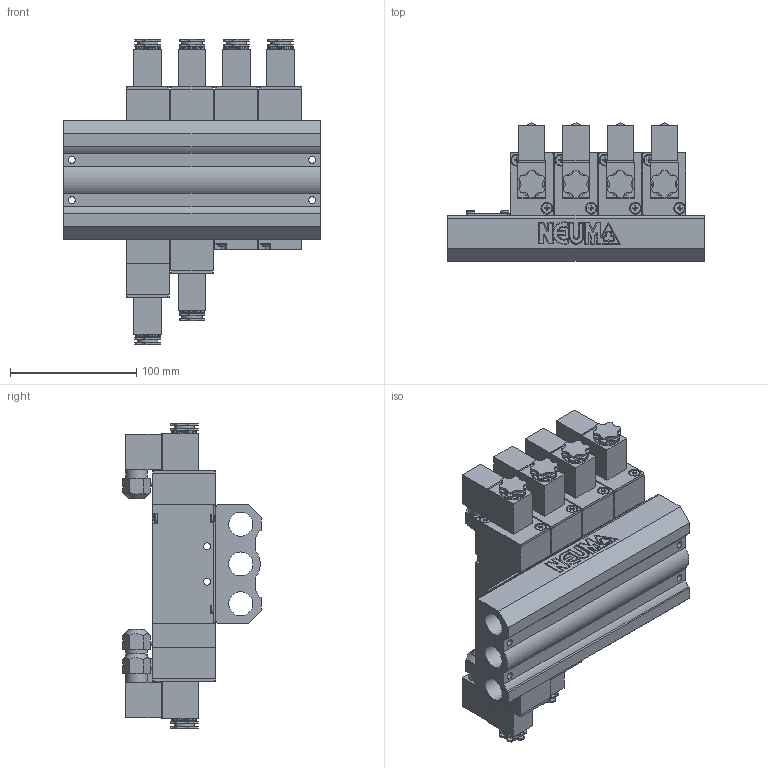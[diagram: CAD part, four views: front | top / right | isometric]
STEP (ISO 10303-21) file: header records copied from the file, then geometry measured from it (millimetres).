
FILE_DESCRIPTION (( 'STEP AP214' ), '1' );
FILE_NAME ('NVA-8500-D2.STEP', '2016-08-04T03:45:27', ( 'Casper' ), ( '' ), 'SwSTEP 2.0', 'SolidWorks 2015', '' );
FILE_SCHEMA (( 'AUTOMOTIVE_DESIGN' ));
Length unit declared in the file: millimetre
Products named in the file (18): NVA-8532-D2; NVA-8500-D01_NVA8500中座; NVA-8522-D2; NVA-8521-D2; 十字圓頭螺栓-M4x0.7x8; NVA-8500-K01_NVA8500端蓋; 2分-M8塑膠螺帽; 2分插頭型線圈(IP67); M4x0.7x30十字皿頭螺栓; NVA-8500-G01; 可動鐵管件組(2分); NV-5500-N01_NV5500手動操作器; NVA-8500-JXX_引導閥體; NVA-8500-C01_NVA8500標準式本體; BM-8500-Y01_BM8500單獨式底座; NVA-8500-D2; NVA-8500-G01_NVA-8500底座蓋版; 十字圓頭螺栓-M4x0.7x50
Assembly tree (64 placements, depth 3):
  NVA-8500-D2
    BM-8500-Y01_BM8500單獨式底座
    NVA-8521-D2  x2
      NVA-8500-C01_NVA8500標準式本體
      NVA-8500-JXX_引導閥體
      NV-5500-N01_NV5500手動操作器
      可動鐵管件組(2分)
      NVA-8500-G01
      M4x0.7x30十字皿頭螺栓
      2分插頭型線圈(IP67)
      2分-M8塑膠螺帽
      NVA-8500-K01_NVA8500端蓋
      十字圓頭螺栓-M4x0.7x8
    NVA-8522-D2
      NVA-8500-C01_NVA8500標準式本體
      NVA-8500-JXX_引導閥體  x2
      NV-5500-N01_NV5500手動操作器  x2
      可動鐵管件組(2分)  x2
      NVA-8500-G01  x2
      M4x0.7x30十字皿頭螺栓  x5
      2分插頭型線圈(IP67)  x2
      2分-M8塑膠螺帽  x2
    NVA-8532-D2
      NVA-8500-C01_NVA8500標準式本體
      NVA-8500-JXX_引導閥體  x2
      NV-5500-N01_NV5500手動操作器  x2
      可動鐵管件組(2分)  x2
      NVA-8500-G01  x2
      M4x0.7x30十字皿頭螺栓  x4
      2分插頭型線圈(IP67)  x2
      2分-M8塑膠螺帽  x2
      NVA-8500-D01_NVA8500中座
    十字圓頭螺栓-M4x0.7x50  x8
    NVA-8500-G01_NVA-8500底座蓋版
    十字圓頭螺栓-M4x0.7x8  x2
Bounding box: 203 x 109.77 x 242 mm (x, y, z)
Volume: 1588309.6 mm3; surface area: 419656.3 mm2
Topology: 96 solids, 96 shells, 3385 faces, 8724 edges, 5753 vertices
Faces by surface type: plane 1821, cylinder 785, bspline 483, cone 237, torus 59
Full cylindrical faces by diameter (mm): 1.7 x6, 2 x12, 3.24 x13, 3.3 x26, 3.6 x14, 4 x39, 4.3 x20, 4.5 x6, 5.5 x12, 6.9 x6, 7 x18, 8 x25, 8.9 x6, 9 x6, 9.4 x12, 10 x12, 10.44 x6, 10.5 x6, 11.94 x12, 12 x6, 14 x6, 15 x6, 16 x24, 17 x6, 18.7 x20, 19 x3, 20 x6
Entity records: 36622 total; most frequent: CARTESIAN_POINT 10530, ORIENTED_EDGE 5570, DIRECTION 3935, EDGE_CURVE 2785, VERTEX_POINT 1912, VECTOR 1453, LINE 1453, EDGE_LOOP 1303
